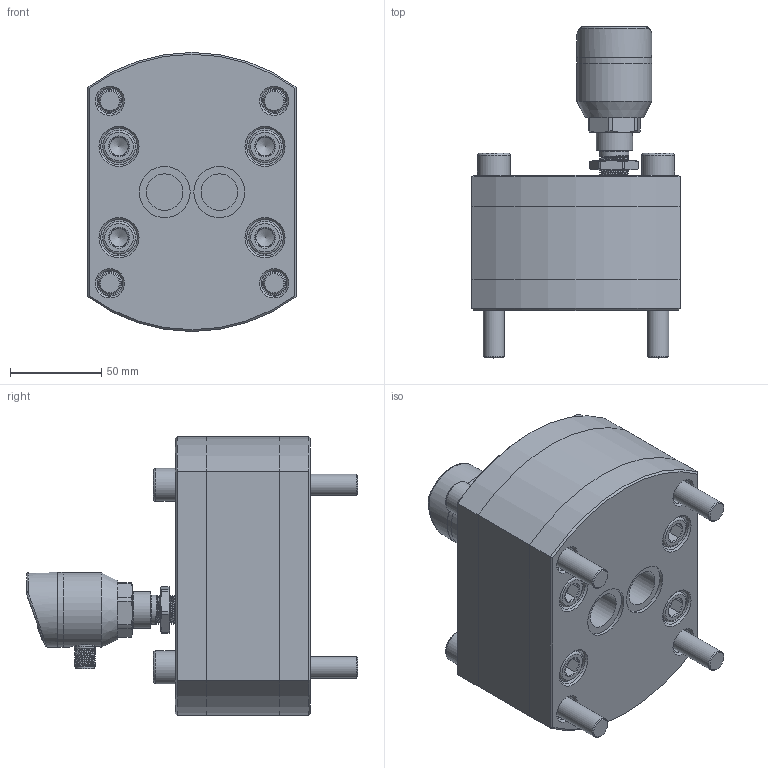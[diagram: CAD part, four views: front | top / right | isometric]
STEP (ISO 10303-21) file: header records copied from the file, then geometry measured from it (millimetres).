
FILE_DESCRIPTION( (''), '2;1');
FILE_NAME( 'QZKB_150L_M25.step', '2024-05-23T16:02:47+08:00', (''), (''), '', '', '');
FILE_SCHEMA (('AUTOMOTIVE_DESIGN { 1 0 10303 214 3 1 1 1 }'));
Length unit declared in the file: millimetre
Products named in the file (1): QZKB 150L_M25
Bounding box: 114 x 181.8 x 152.9 mm (x, y, z)
Volume: 1227351.6 mm3; surface area: 251627.1 mm2
Topology: 22 solids, 24 shells, 956 faces, 2091 edges, 1249 vertices
Faces by surface type: plane 403, cylinder 241, cone 195, torus 69, bspline 42, sphere 6
Full cylindrical faces by diameter (mm): 1 x5, 2.7 x4, 6 x12, 8.4 x1, 9.7 x1, 9.8 x1, 10.1 x1, 10.5 x8, 11.6 x1, 11.701 x15, 12 x17, 14 x12, 15 x11, 15.9 x1, 17 x1, 18 x15, 20 x11, 23 x3, 26 x4, 26.1 x1, 28 x2, 37 x1, 41 x3
Entity records: 42409 total; most frequent: CARTESIAN_POINT 21602, DIRECTION 4066, ORIENTED_EDGE 3488, EDGE_CURVE 1744, AXIS2_PLACEMENT_3D 1697, EDGE_LOOP 1308, VERTEX_POINT 1161, ADVANCED_FACE 943
